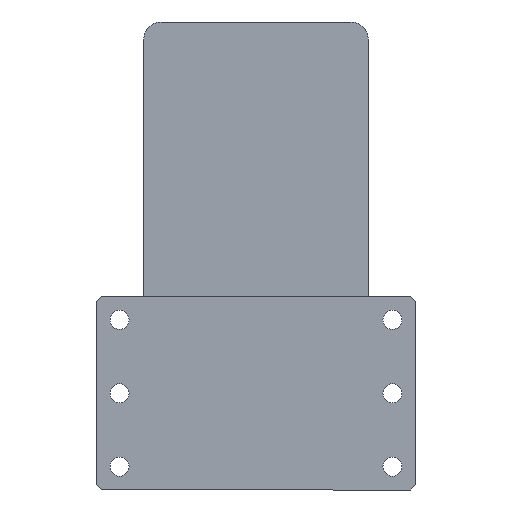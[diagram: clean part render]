
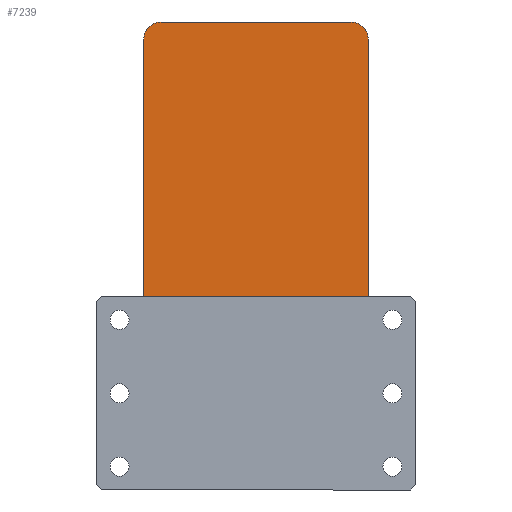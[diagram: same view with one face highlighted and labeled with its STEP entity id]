
A CAD part, left-side view. The second image highlights one B-rep face of the part: STEP entity #7239.
In plain terms, the highlighted planar face has unit normal (-1, 0, 0) as drawn and (0, 0, 1) by its records, which use the part's own axes.
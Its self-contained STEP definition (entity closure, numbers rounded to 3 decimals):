
#149 = VERTEX_POINT ( 'NONE', #17766 ) ;
#350 = DIRECTION ( 'NONE',  ( 1., 0., 0. ) ) ;
#741 = CARTESIAN_POINT ( 'NONE',  ( -65., -135., 105. ) ) ;
#958 = ORIENTED_EDGE ( 'NONE', *, *, #5468, .T. ) ;
#996 = AXIS2_PLACEMENT_3D ( 'NONE', #11520, #11290, #11214 ) ;
#999 = ORIENTED_EDGE ( 'NONE', *, *, #5215, .T. ) ;
#1005 = VERTEX_POINT ( 'NONE', #11820 ) ;
#1063 = CARTESIAN_POINT ( 'NONE',  ( -55., 135., 105. ) ) ;
#1160 = ORIENTED_EDGE ( 'NONE', *, *, #5395, .T. ) ;
#1325 = DIRECTION ( 'NONE',  ( 0., 0., 1. ) ) ;
#1369 = DIRECTION ( 'NONE',  ( 1., 0., 0. ) ) ;
#1395 = DIRECTION ( 'NONE',  ( 0., -1., 0. ) ) ;
#1403 = ORIENTED_EDGE ( 'NONE', *, *, #5052, .T. ) ;
#1440 = CARTESIAN_POINT ( 'NONE',  ( -65., 135., 105. ) ) ;
#1489 = ORIENTED_EDGE ( 'NONE', *, *, #5391, .T. ) ;
#1590 = CARTESIAN_POINT ( 'NONE',  ( -55., -125., 105. ) ) ;
#1665 = ORIENTED_EDGE ( 'NONE', *, *, #4916, .T. ) ;
#1708 = ORIENTED_EDGE ( 'NONE', *, *, #5365, .T. ) ;
#2041 = ORIENTED_EDGE ( 'NONE', *, *, #5331, .T. ) ;
#2609 = DIRECTION ( 'NONE',  ( -1., 0., 0. ) ) ;
#2980 = EDGE_LOOP ( 'NONE', ( #2041, #1708, #1665, #1489, #1403, #1160, #999, #958 ) ) ;
#3243 = AXIS2_PLACEMENT_3D ( 'NONE', #1590, #1325, #1369 ) ;
#3304 = CIRCLE ( 'NONE', #3243, 10. ) ;
#3411 = DIRECTION ( 'NONE',  ( 0., 1., 0. ) ) ;
#3419 = CIRCLE ( 'NONE', #18637, 10. ) ;
#3473 = CIRCLE ( 'NONE', #19553, 10. ) ;
#3509 = DIRECTION ( 'NONE',  ( 1., 0., 0. ) ) ;
#3539 = VECTOR ( 'NONE', #350, 1000. ) ;
#3556 = CARTESIAN_POINT ( 'NONE',  ( 65., 135., 105. ) ) ;
#3557 = CIRCLE ( 'NONE', #16908, 10. ) ;
#3582 = LINE ( 'NONE', #741, #3539 ) ;
#3843 = VECTOR ( 'NONE', #1395, 1000. ) ;
#3915 = DIRECTION ( 'NONE',  ( 0., 0., 1. ) ) ;
#3945 = CARTESIAN_POINT ( 'NONE',  ( -55., 125., 105. ) ) ;
#4120 = LINE ( 'NONE', #1440, #3843 ) ;
#4275 = VECTOR ( 'NONE', #2609, 1000. ) ;
#4359 = LINE ( 'NONE', #6564, #4275 ) ;
#4769 = CARTESIAN_POINT ( 'NONE',  ( -65., 125., 105. ) ) ;
#4845 = DIRECTION ( 'NONE',  ( 1., 0., 0. ) ) ;
#4846 = VECTOR ( 'NONE', #3411, 1000. ) ;
#4890 = LINE ( 'NONE', #3556, #4846 ) ;
#4916 = EDGE_CURVE ( 'NONE', #149, #1005, #4890, .T. ) ;
#5052 = EDGE_CURVE ( 'NONE', #6623, #5508, #4359, .T. ) ;
#5098 = CARTESIAN_POINT ( 'NONE',  ( 55., 125., 105. ) ) ;
#5141 = DIRECTION ( 'NONE',  ( 0., 0., 1. ) ) ;
#5215 = EDGE_CURVE ( 'NONE', #10067, #9203, #4120, .T. ) ;
#5331 = EDGE_CURVE ( 'NONE', #6436, #20408, #3582, .T. ) ;
#5365 = EDGE_CURVE ( 'NONE', #20408, #149, #3557, .T. ) ;
#5391 = EDGE_CURVE ( 'NONE', #1005, #6623, #3419, .T. ) ;
#5395 = EDGE_CURVE ( 'NONE', #5508, #10067, #3473, .T. ) ;
#5468 = EDGE_CURVE ( 'NONE', #9203, #6436, #3304, .T. ) ;
#5508 = VERTEX_POINT ( 'NONE', #1063 ) ;
#5847 = CARTESIAN_POINT ( 'NONE',  ( 55., 135., 105. ) ) ;
#6436 = VERTEX_POINT ( 'NONE', #8561 ) ;
#6564 = CARTESIAN_POINT ( 'NONE',  ( -65., 135., 105. ) ) ;
#6623 = VERTEX_POINT ( 'NONE', #5847 ) ;
#7239 = ADVANCED_FACE ( 'NONE', ( #13927 ), #11719, .T. ) ;
#8561 = CARTESIAN_POINT ( 'NONE',  ( -55., -135., 105. ) ) ;
#9203 = VERTEX_POINT ( 'NONE', #16461 ) ;
#10067 = VERTEX_POINT ( 'NONE', #4769 ) ;
#11214 = DIRECTION ( 'NONE',  ( 1., 0., 0. ) ) ;
#11290 = DIRECTION ( 'NONE',  ( 0., 0., 1. ) ) ;
#11520 = CARTESIAN_POINT ( 'NONE',  ( 0., 0., 105. ) ) ;
#11719 = PLANE ( 'NONE',  #996 ) ;
#11820 = CARTESIAN_POINT ( 'NONE',  ( 65., 125., 105. ) ) ;
#13927 = FACE_OUTER_BOUND ( 'NONE', #2980, .T. ) ;
#16461 = CARTESIAN_POINT ( 'NONE',  ( -65., -125., 105. ) ) ;
#16908 = AXIS2_PLACEMENT_3D ( 'NONE', #17175, #17146, #17075 ) ;
#17075 = DIRECTION ( 'NONE',  ( 1., 0., 0. ) ) ;
#17079 = CARTESIAN_POINT ( 'NONE',  ( 55., -135., 105. ) ) ;
#17146 = DIRECTION ( 'NONE',  ( 0., 0., 1. ) ) ;
#17175 = CARTESIAN_POINT ( 'NONE',  ( 55., -125., 105. ) ) ;
#17766 = CARTESIAN_POINT ( 'NONE',  ( 65., -125., 105. ) ) ;
#18637 = AXIS2_PLACEMENT_3D ( 'NONE', #5098, #5141, #4845 ) ;
#19553 = AXIS2_PLACEMENT_3D ( 'NONE', #3945, #3915, #3509 ) ;
#20408 = VERTEX_POINT ( 'NONE', #17079 ) ;
